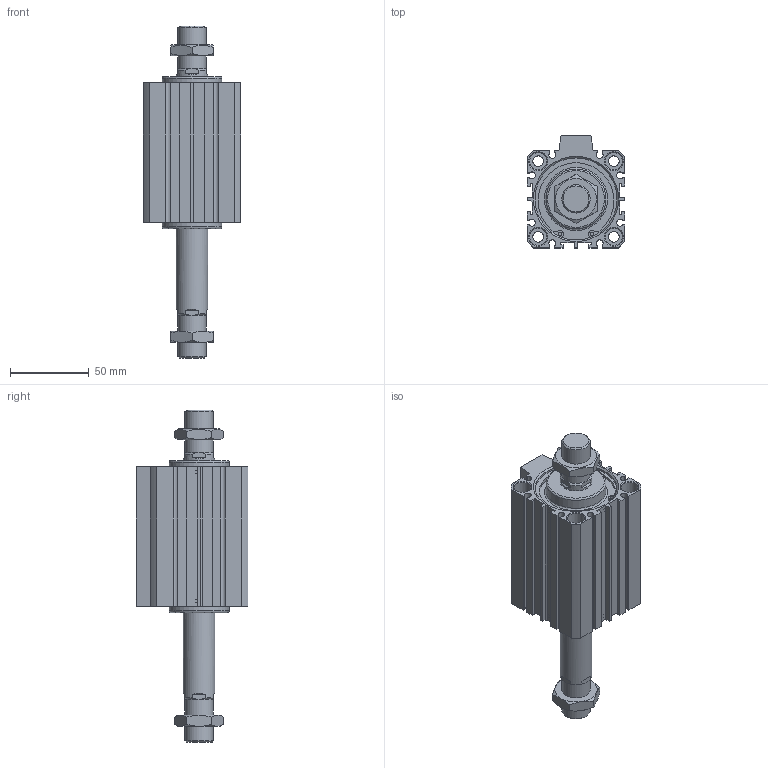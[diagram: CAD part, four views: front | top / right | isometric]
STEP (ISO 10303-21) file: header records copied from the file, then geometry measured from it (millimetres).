
FILE_DESCRIPTION((''),'2;1');
FILE_NAME('I:\3D電子目錄\氣缸\JDD\JDD-BS\JDD50-BS\JDD50x50-BS.stp','2007-02-27T15:10:54',('662F206'),(''),'Autodesk Inventor 10','Autodesk Inventor 10','');
FILE_SCHEMA(('AUTOMOTIVE_DESIGN { 1 0 10303 214 1 1 1 1 }'));
Length unit declared in the file: millimetre
Products named in the file (3): JDD50-BS; R 形環 52
Assembly tree (3 placements, depth 2):
  JDD50-BS
    JDD50-BS
    R 形環 52  x2
Bounding box: 62 x 71 x 210.6 mm (x, y, z)
Volume: 346519.4 mm3; surface area: 67342.4 mm2
Topology: 3 solids, 3 shells, 231 faces, 561 edges, 362 vertices
Faces by surface type: plane 133, cylinder 56, cone 38, bspline 2, torus 2
Full cylindrical faces by diameter (mm): 2.3 x4, 2.7 x2, 6.8 x4, 11 x8, 18 x4, 20 x2, 38 x2, 52 x4, 55 x2
Entity records: 6180 total; most frequent: CARTESIAN_POINT 1222, DIRECTION 1017, ORIENTED_EDGE 942, EDGE_CURVE 471, AXIS2_PLACEMENT_3D 375, VERTEX_POINT 334, EDGE_LOOP 309, VECTOR 267
